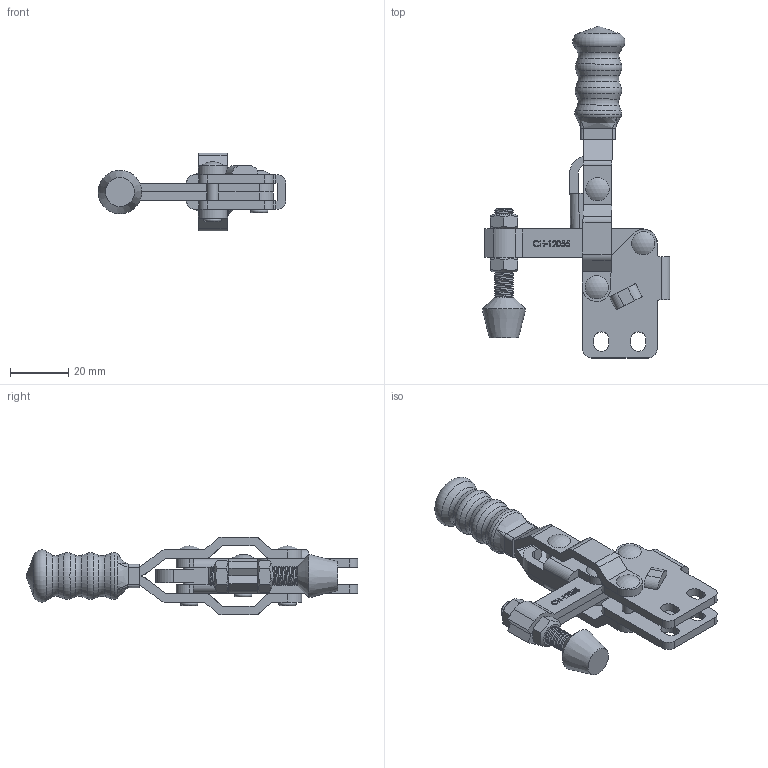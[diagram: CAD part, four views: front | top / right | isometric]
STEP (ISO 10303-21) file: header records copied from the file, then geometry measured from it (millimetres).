
FILE_DESCRIPTION(/* description */ ('STEP AP203'),/* implementation_level */ '2;1');
FILE_NAME(/* name */ 'D:\Vault_2016\Projekty\NASZ KATALOG\CLAMPTEK\STRONA\Vertical toggle clamp\CH-12055\CH-12055_ZAMKNIETY.stp',/* time_stamp */ '2019-01-18T13:02:22+01:00',/* author */ ('CADENGINEERING4'),/* organization */ ('Î¢ÈíÖÐ¹ú'),/* preprocessor_version */ 'ST-DEVELOPER v17.2',/* originating_system */ 'Autodesk Inventor 2019',/* authorisation */ '');
FILE_SCHEMA (('AP203_CONFIGURATION_CONTROLLED_3D_DESIGN_OF_MECHANICAL_PARTS_AND_ASSEMBLIES_MIM_LF { 1 0 10303 203 3 1 4 }','AUTOMOTIVE_DESIGN { 1 0 10303 214 3 1 1 }'));
Length unit declared in the file: millimetre
Products named in the file (10): CH-12055_ZAMKNIETY; CH-12055-01 STRAIGHT BASE; CH-12055-02 FIXED SPINDLE; CH-12050-03 STRAIGHT HANDLE; CH-12050-04 CONNECTING-PLATE; CH-12050-05; CH-12050-06; CH-12050-07; CH-FC-14134 SPINDLE SUPPLIED; CH-FC-14134 Nut
Assembly tree (12 placements, depth 2):
  CH-12055_ZAMKNIETY
    CH-12055-01 STRAIGHT BASE
    CH-12055-02 FIXED SPINDLE
    CH-12050-03 STRAIGHT HANDLE
    CH-12050-04 CONNECTING-PLATE
    CH-12050-05
    CH-12050-06  x2
    CH-12050-07  x2
    CH-FC-14134 Nut  x2
    CH-FC-14134 SPINDLE SUPPLIED
Bounding box: 64.6 x 114.25 x 26.8 mm (x, y, z)
Volume: 25308.2 mm3; surface area: 22449.2 mm2
Topology: 14 solids, 16 shells, 645 faces, 1804 edges, 1219 vertices
Faces by surface type: plane 286, bspline 187, cylinder 127, cone 25, torus 16, sphere 4
Full cylindrical faces by diameter (mm): 1.005 x1, 1.217 x1, 4 x20, 5.1 x6, 6.4 x26
Entity records: 38013 total; most frequent: CARTESIAN_POINT 22969, ORIENTED_EDGE 3416, DIRECTION 2425, EDGE_CURVE 1708, VERTEX_POINT 1155, LINE 953, VECTOR 953, AXIS2_PLACEMENT_3D 736
